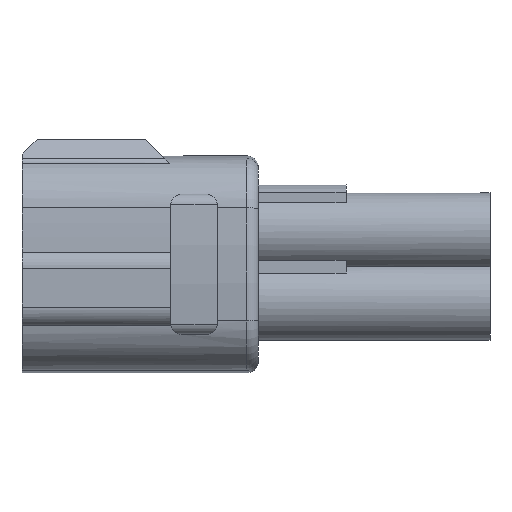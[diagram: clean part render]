
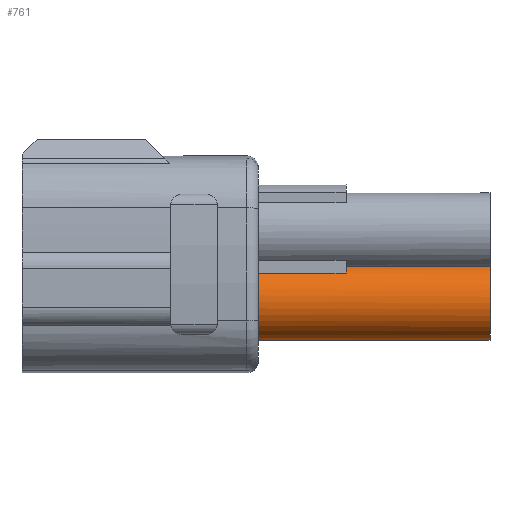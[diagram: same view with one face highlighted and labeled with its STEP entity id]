
A CAD part, front view. The second image highlights one B-rep face of the part: STEP entity #761.
In plain terms, the highlighted cylindrical face has radius 3.3 mm (diameter 6.6 mm), a partial arc.
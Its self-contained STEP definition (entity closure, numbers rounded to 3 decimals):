
#544=AXIS2_PLACEMENT_3D('Circle Axis2P3D',#542,#543,$) ;
#725=AXIS2_PLACEMENT_3D('Cylinder Axis2P3D',#722,#723,#724) ;
#729=AXIS2_PLACEMENT_3D('Circle Axis2P3D',#727,#728,$) ;
#743=AXIS2_PLACEMENT_3D('Circle Axis2P3D',#741,#742,$) ;
#539=CARTESIAN_POINT('Vertex',(21.,-1.375,-1.9)) ;
#542=CARTESIAN_POINT('Axis2P3D Location',(21.,0.,-4.9)) ;
#546=CARTESIAN_POINT('Vertex',(21.,3.,-6.275)) ;
#696=CARTESIAN_POINT('Vertex',(8.7,-1.375,-1.9)) ;
#699=CARTESIAN_POINT('Line Origine',(11.71,-1.375,-1.9)) ;
#722=CARTESIAN_POINT('Axis2P3D Location',(11.71,0.,-4.9)) ;
#727=CARTESIAN_POINT('Axis2P3D Location',(1.2,0.,-4.9)) ;
#731=CARTESIAN_POINT('Vertex',(1.2,-2.2,-2.44)) ;
#733=CARTESIAN_POINT('Vertex',(1.2,3.,-6.275)) ;
#736=CARTESIAN_POINT('Line Origine',(11.71,3.,-6.275)) ;
#741=CARTESIAN_POINT('Axis2P3D Location',(8.7,0.,-4.9)) ;
#745=CARTESIAN_POINT('Vertex',(8.7,-2.2,-2.44)) ;
#748=CARTESIAN_POINT('Line Origine',(11.71,-2.2,-2.44)) ;
#543=DIRECTION('Axis2P3D Direction',(1.,0.,0.)) ;
#700=DIRECTION('Vector Direction',(1.,0.,0.)) ;
#723=DIRECTION('Axis2P3D Direction',(1.,0.,0.)) ;
#724=DIRECTION('Axis2P3D XDirection',(0.,-0.417,0.909)) ;
#728=DIRECTION('Axis2P3D Direction',(1.,0.,0.)) ;
#737=DIRECTION('Vector Direction',(1.,0.,0.)) ;
#742=DIRECTION('Axis2P3D Direction',(1.,0.,0.)) ;
#749=DIRECTION('Vector Direction',(1.,0.,0.)) ;
#701=VECTOR('Line Direction',#700,1.) ;
#738=VECTOR('Line Direction',#737,1.) ;
#750=VECTOR('Line Direction',#749,1.) ;
#754=ORIENTED_EDGE('',*,*,#735,.T.) ;
#755=ORIENTED_EDGE('',*,*,#740,.T.) ;
#756=ORIENTED_EDGE('',*,*,#548,.F.) ;
#757=ORIENTED_EDGE('',*,*,#703,.F.) ;
#758=ORIENTED_EDGE('',*,*,#747,.T.) ;
#759=ORIENTED_EDGE('',*,*,#752,.F.) ;
#761=ADVANCED_FACE('\X2\FF8AFF9FFF70FF82\X0\ \X2\FF8EFF9EFF83FF9EFF68FF70\X0\',(#760),#726,.T.) ;
#545=CIRCLE('generated circle',#544,3.3) ;
#730=CIRCLE('generated circle',#729,3.3) ;
#744=CIRCLE('generated circle',#743,3.3) ;
#726=CYLINDRICAL_SURFACE('generated cylinder',#725,3.3) ;
#548=EDGE_CURVE('',#540,#547,#545,.T.) ;
#703=EDGE_CURVE('',#697,#540,#702,.T.) ;
#735=EDGE_CURVE('',#732,#734,#730,.T.) ;
#740=EDGE_CURVE('',#734,#547,#739,.T.) ;
#747=EDGE_CURVE('',#697,#746,#744,.T.) ;
#752=EDGE_CURVE('',#732,#746,#751,.T.) ;
#753=EDGE_LOOP('',(#754,#755,#756,#757,#758,#759)) ;
#760=FACE_OUTER_BOUND('',#753,.T.) ;
#702=LINE('Line',#699,#701) ;
#739=LINE('Line',#736,#738) ;
#751=LINE('Line',#748,#750) ;
#540=VERTEX_POINT('',#539) ;
#547=VERTEX_POINT('',#546) ;
#697=VERTEX_POINT('',#696) ;
#732=VERTEX_POINT('',#731) ;
#734=VERTEX_POINT('',#733) ;
#746=VERTEX_POINT('',#745) ;
